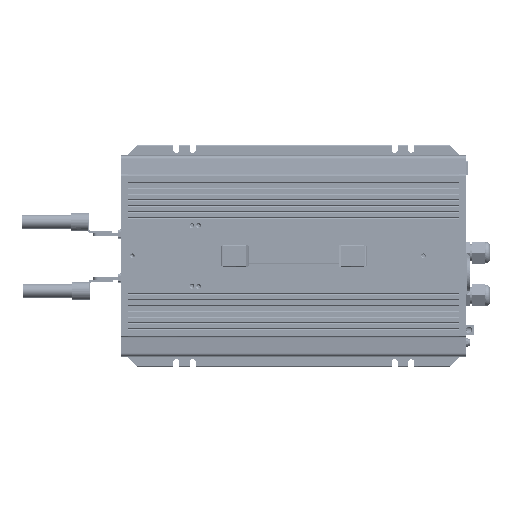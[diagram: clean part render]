
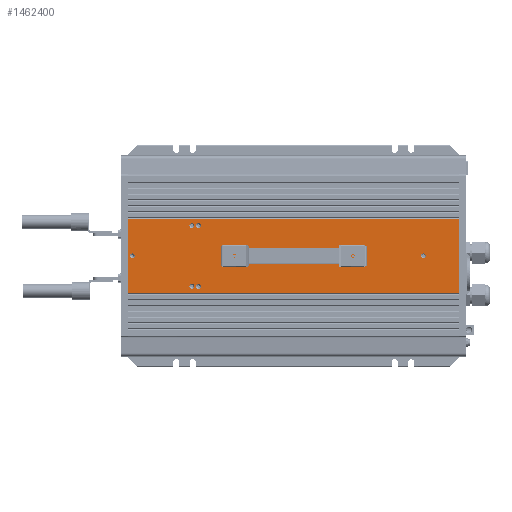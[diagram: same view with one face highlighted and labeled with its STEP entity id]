
A CAD part, top view. The second image highlights one B-rep face of the part: STEP entity #1462400.
In plain terms, the highlighted planar face has unit normal (0, 0, 1) as drawn and (0, 1, 0) by its records, which use the part's own axes.
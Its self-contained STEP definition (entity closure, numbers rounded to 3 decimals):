
#1439680=CARTESIAN_POINT('',(2078.449,98.104,-63.1));
#1439690=VERTEX_POINT('',#1439680);
#1439720=CARTESIAN_POINT('',(1988.299,98.104,-63.1));
#1439730=DIRECTION('',(1.,0.,0.));
#1439740=VECTOR('',#1439730,90.15);
#1439750=LINE('',#1439720,#1439740);
#1439760=CARTESIAN_POINT('',(1988.299,98.104,-63.1));
#1439770=VERTEX_POINT('',#1439760);
#1439780=EDGE_CURVE('',#1439770,#1439690,#1439750,.T.);
#1448660=CARTESIAN_POINT('',(1988.299,98.104,340.9));
#1448670=VERTEX_POINT('',#1448660);
#1448700=CARTESIAN_POINT('',(2078.449,98.104,340.9));
#1448710=DIRECTION('',(-1.,0.,0.));
#1448720=VECTOR('',#1448710,90.15);
#1448730=LINE('',#1448700,#1448720);
#1448740=CARTESIAN_POINT('',(2078.449,98.104,340.9));
#1448750=VERTEX_POINT('',#1448740);
#1448760=EDGE_CURVE('',#1448750,#1448670,#1448730,.T.);
#1460500=CARTESIAN_POINT('',(2030.374,98.104,296.9));
#1460510=VERTEX_POINT('',#1460500);
#1460630=CARTESIAN_POINT('',(2036.374,98.104,296.9));
#1460640=VERTEX_POINT('',#1460630);
#1460670=CARTESIAN_POINT('',(2033.374,98.104,296.9));
#1460680=DIRECTION('',(0.,-1.,0.));
#1460690=DIRECTION('',(1.,0.,0.));
#1460700=AXIS2_PLACEMENT_3D('',#1460670,#1460680,#1460690);
#1460710=CIRCLE('',#1460700,3.);
#1460720=EDGE_CURVE('',#1460640,#1460510,#1460710,.T.);
#1461010=CARTESIAN_POINT('',(2028.721,98.104,122.9));
#1461020=DIRECTION('',(0.,-1.,0.));
#1461030=DIRECTION('',(1.,0.,0.));
#1461040=AXIS2_PLACEMENT_3D('',#1461010,#1461020,#1461030);
#1461050=PLANE('',#1461040);
#1461060=CARTESIAN_POINT('',(2033.376,98.104,210.9));
#1461070=DIRECTION('',(0.,1.,0.));
#1461080=DIRECTION('',(0.,0.,1.));
#1461090=AXIS2_PLACEMENT_3D('',#1461060,#1461070,#1461080);
#1461100=CIRCLE('',#1461090,1.6);
#1461110=CARTESIAN_POINT('',(2033.376,98.104,212.5));
#1461120=VERTEX_POINT('',#1461110);
#1461130=CARTESIAN_POINT('',(2033.376,98.104,209.3));
#1461140=VERTEX_POINT('',#1461130);
#1461150=EDGE_CURVE('',#1461120,#1461140,#1461100,.T.);
#1461160=ORIENTED_EDGE('',*,*,#1461150,.F.);
#1461170=EDGE_CURVE('',#1461140,#1461120,#1461100,.T.);
#1461180=ORIENTED_EDGE('',*,*,#1461170,.F.);
#1461190=EDGE_LOOP('',(#1461180,#1461160));
#1461200=FACE_BOUND('',#1461190,.T.);
#1461210=CARTESIAN_POINT('',(1996.284,98.104,22.949
));
#1461220=DIRECTION('',(0.,1.,0.));
#1461230=DIRECTION('',(1.,0.,0.));
#1461240=AXIS2_PLACEMENT_3D('',#1461210,#1461220,#1461230);
#1461250=CIRCLE('',#1461240,3.);
#1461260=CARTESIAN_POINT('',(1996.284,98.104,19.949
));
#1461270=VERTEX_POINT('',#1461260);
#1461280=CARTESIAN_POINT('',(1993.284,98.104,22.949
));
#1461290=VERTEX_POINT('',#1461280);
#1461300=EDGE_CURVE('',#1461270,#1461290,#1461250,.T.);
#1461310=ORIENTED_EDGE('',*,*,#1461300,.F.);
#1461320=CARTESIAN_POINT('',(1999.284,98.104,22.949
));
#1461330=VERTEX_POINT('',#1461320);
#1461340=EDGE_CURVE('',#1461290,#1461330,#1461250,.T.);
#1461350=ORIENTED_EDGE('',*,*,#1461340,.F.);
#1461360=EDGE_CURVE('',#1461330,#1461270,#1461250,.T.);
#1461370=ORIENTED_EDGE('',*,*,#1461360,.F.);
#1461380=EDGE_LOOP('',(#1461370,#1461350,#1461310));
#1461390=FACE_BOUND('',#1461380,.T.);
#1461400=EDGE_CURVE('',#1460510,#1460640,#1460710,.T.);
#1461410=ORIENTED_EDGE('',*,*,#1461400,.T.);
#1461420=ORIENTED_EDGE('',*,*,#1460720,.T.);
#1461430=EDGE_LOOP('',(#1461420,#1461410));
#1461440=FACE_BOUND('',#1461430,.T.);
#1461450=CARTESIAN_POINT('',(2033.376,98.104,-57.6));
#1461460=DIRECTION('',(0.,-1.,0.));
#1461470=DIRECTION('',(-1.,0.,0.));
#1461480=AXIS2_PLACEMENT_3D('',#1461450,#1461460,#1461470);
#1461490=CIRCLE('',#1461480,3.);
#1461500=CARTESIAN_POINT('',(2030.376,98.104,
-57.6));
#1461510=VERTEX_POINT('',#1461500);
#1461520=CARTESIAN_POINT('',(2036.376,98.104,
-57.6));
#1461530=VERTEX_POINT('',#1461520);
#1461540=EDGE_CURVE('',#1461510,#1461530,#1461490,.T.);
#1461550=ORIENTED_EDGE('',*,*,#1461540,.T.);
#1461560=EDGE_CURVE('',#1461530,#1461510,#1461490,.T.);
#1461570=ORIENTED_EDGE('',*,*,#1461560,.T.);
#1461580=EDGE_LOOP('',(#1461570,#1461550));
#1461590=FACE_BOUND('',#1461580,.T.);
#1461600=CARTESIAN_POINT('',(2070.318,98.104,14.949));
#1461610=DIRECTION('',(0.,1.,0.));
#1461620=DIRECTION('',(1.,0.,0.));
#1461630=AXIS2_PLACEMENT_3D('',#1461600,#1461610,#1461620);
#1461640=CIRCLE('',#1461630,3.);
#1461650=CARTESIAN_POINT('',(2073.318,98.104,14.949));
#1461660=VERTEX_POINT('',#1461650);
#1461670=CARTESIAN_POINT('',(2067.318,98.104,14.949));
#1461680=VERTEX_POINT('',#1461670);
#1461690=EDGE_CURVE('',#1461660,#1461680,#1461640,.T.);
#1461700=ORIENTED_EDGE('',*,*,#1461690,.F.);
#1461710=EDGE_CURVE('',#1461680,#1461660,#1461640,.T.);
#1461720=ORIENTED_EDGE('',*,*,#1461710,.F.);
#1461730=EDGE_LOOP('',(#1461720,#1461700));
#1461740=FACE_BOUND('',#1461730,.T.);
#1461750=CARTESIAN_POINT('',(1996.284,98.104,14.949
));
#1461760=DIRECTION('',(0.,1.,0.));
#1461770=DIRECTION('',(1.,0.,0.));
#1461780=AXIS2_PLACEMENT_3D('',#1461750,#1461760,#1461770);
#1461790=CIRCLE('',#1461780,3.);
#1461800=CARTESIAN_POINT('',(1995.513,98.104,12.05
));
#1461810=VERTEX_POINT('',#1461800);
#1461820=CARTESIAN_POINT('',(1993.284,98.104,14.949
));
#1461830=VERTEX_POINT('',#1461820);
#1461840=EDGE_CURVE('',#1461810,#1461830,#1461790,.T.);
#1461850=ORIENTED_EDGE('',*,*,#1461840,.F.);
#1461860=CARTESIAN_POINT('',(1999.284,98.104,14.949
));
#1461870=VERTEX_POINT('',#1461860);
#1461880=EDGE_CURVE('',#1461830,#1461870,#1461790,.T.);
#1461890=ORIENTED_EDGE('',*,*,#1461880,.F.);
#1461900=EDGE_CURVE('',#1461870,#1461810,#1461790,.T.);
#1461910=ORIENTED_EDGE('',*,*,#1461900,.F.);
#1461920=EDGE_LOOP('',(#1461910,#1461890,#1461850));
#1461930=FACE_BOUND('',#1461920,.T.);
#1461940=CARTESIAN_POINT('',(2070.318,98.104,22.949));
#1461950=DIRECTION('',(0.,1.,0.));
#1461960=DIRECTION('',(1.,0.,0.));
#1461970=AXIS2_PLACEMENT_3D('',#1461940,#1461950,#1461960);
#1461980=CIRCLE('',#1461970,3.);
#1461990=CARTESIAN_POINT('',(2073.318,98.104,22.949));
#1462000=VERTEX_POINT('',#1461990);
#1462010=CARTESIAN_POINT('',(2067.318,98.104,22.949));
#1462020=VERTEX_POINT('',#1462010);
#1462030=EDGE_CURVE('',#1462000,#1462020,#1461980,.T.);
#1462040=ORIENTED_EDGE('',*,*,#1462030,.F.);
#1462050=EDGE_CURVE('',#1462020,#1462000,#1461980,.T.);
#1462060=ORIENTED_EDGE('',*,*,#1462050,.F.);
#1462070=EDGE_LOOP('',(#1462060,#1462040));
#1462080=FACE_BOUND('',#1462070,.T.);
#1462090=CARTESIAN_POINT('',(2033.376,98.104,66.9));
#1462100=DIRECTION('',(0.,1.,0.));
#1462110=DIRECTION('',(0.,0.,1.));
#1462120=AXIS2_PLACEMENT_3D('',#1462090,#1462100,#1462110);
#1462130=CIRCLE('',#1462120,1.6);
#1462140=CARTESIAN_POINT('',(2033.376,98.104,68.5));
#1462150=VERTEX_POINT('',#1462140);
#1462160=CARTESIAN_POINT('',(2033.376,98.104,65.3));
#1462170=VERTEX_POINT('',#1462160);
#1462180=EDGE_CURVE('',#1462150,#1462170,#1462130,.T.);
#1462190=ORIENTED_EDGE('',*,*,#1462180,.F.);
#1462200=EDGE_CURVE('',#1462170,#1462150,#1462130,.T.);
#1462210=ORIENTED_EDGE('',*,*,#1462200,.F.);
#1462220=EDGE_LOOP('',(#1462210,#1462190));
#1462230=FACE_BOUND('',#1462220,.T.);
#1462240=ORIENTED_EDGE('',*,*,#1439780,.F.);
#1462250=CARTESIAN_POINT('',(2078.449,98.104,-63.1));
#1462260=DIRECTION('',(0.,0.,1.));
#1462270=VECTOR('',#1462260,404.);
#1462280=LINE('',#1462250,#1462270);
#1462290=EDGE_CURVE('',#1439690,#1448750,#1462280,.T.);
#1462300=ORIENTED_EDGE('',*,*,#1462290,.F.);
#1462310=ORIENTED_EDGE('',*,*,#1448760,.F.);
#1462320=CARTESIAN_POINT('',(1988.299,98.104,340.9));
#1462330=DIRECTION('',(0.,0.,-1.));
#1462340=VECTOR('',#1462330,404.);
#1462350=LINE('',#1462320,#1462340);
#1462360=EDGE_CURVE('',#1448670,#1439770,#1462350,.T.);
#1462370=ORIENTED_EDGE('',*,*,#1462360,.F.);
#1462380=EDGE_LOOP('',(#1462370,#1462310,#1462300,#1462240));
#1462390=FACE_OUTER_BOUND('',#1462380,.T.);
#1462400=ADVANCED_FACE('',(#1461200,#1461390,#1461440,#1461590,#1461740,
#1461930,#1462080,#1462230,#1462390),#1461050,.F.);
